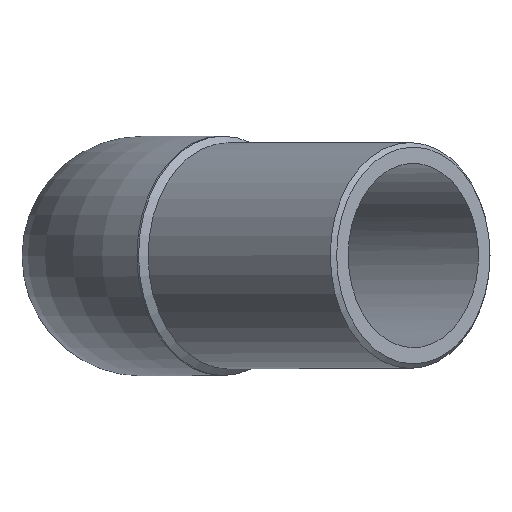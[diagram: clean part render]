
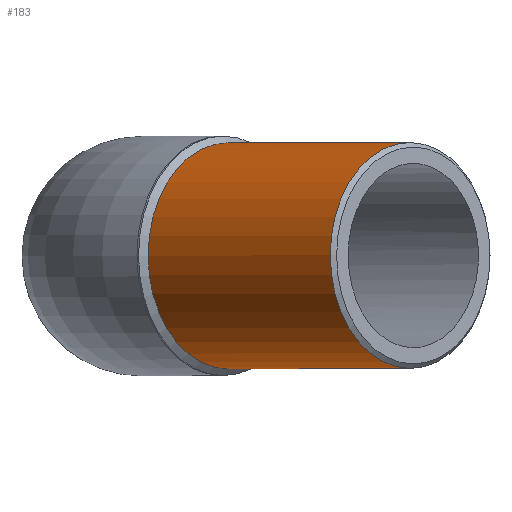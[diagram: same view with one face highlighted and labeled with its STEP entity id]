
A CAD part, top view. The second image highlights one B-rep face of the part: STEP entity #183.
In plain terms, the highlighted cylindrical face has radius 25 mm (diameter 50 mm), a full revolution.
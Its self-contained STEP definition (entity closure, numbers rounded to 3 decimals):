
#29=CYLINDRICAL_SURFACE('',#212,25.);
#37=ORIENTED_EDGE('',*,*,#75,.T.);
#38=ORIENTED_EDGE('',*,*,#73,.F.);
#73=EDGE_CURVE('',#92,#92,#110,.T.);
#75=EDGE_CURVE('',#94,#94,#112,.T.);
#92=VERTEX_POINT('',#301);
#94=VERTEX_POINT('',#306);
#110=CIRCLE('',#210,25.);
#112=CIRCLE('',#213,25.);
#126=EDGE_LOOP('',(#37));
#127=EDGE_LOOP('',(#38));
#153=FACE_BOUND('',#126,.T.);
#154=FACE_BOUND('',#127,.T.);
#183=ADVANCED_FACE('',(#153,#154),#29,.T.);
#210=AXIS2_PLACEMENT_3D('',#300,#242,#243);
#212=AXIS2_PLACEMENT_3D('',#304,#246,#247);
#213=AXIS2_PLACEMENT_3D('',#305,#248,#249);
#242=DIRECTION('',(-0.707,0.,-0.707));
#243=DIRECTION('',(-0.707,0.,0.707));
#246=DIRECTION('',(0.707,0.,0.707));
#247=DIRECTION('',(-0.707,0.,0.707));
#248=DIRECTION('',(-0.707,0.,-0.707));
#249=DIRECTION('',(-0.707,0.,0.707));
#300=CARTESIAN_POINT('',(19.092,0.,19.092));
#301=CARTESIAN_POINT('',(1.414,0.,36.77));
#304=CARTESIAN_POINT('',(65.054,0.,65.054));
#305=CARTESIAN_POINT('',(59.397,0.,59.397));
#306=CARTESIAN_POINT('',(41.719,0.,77.075));
